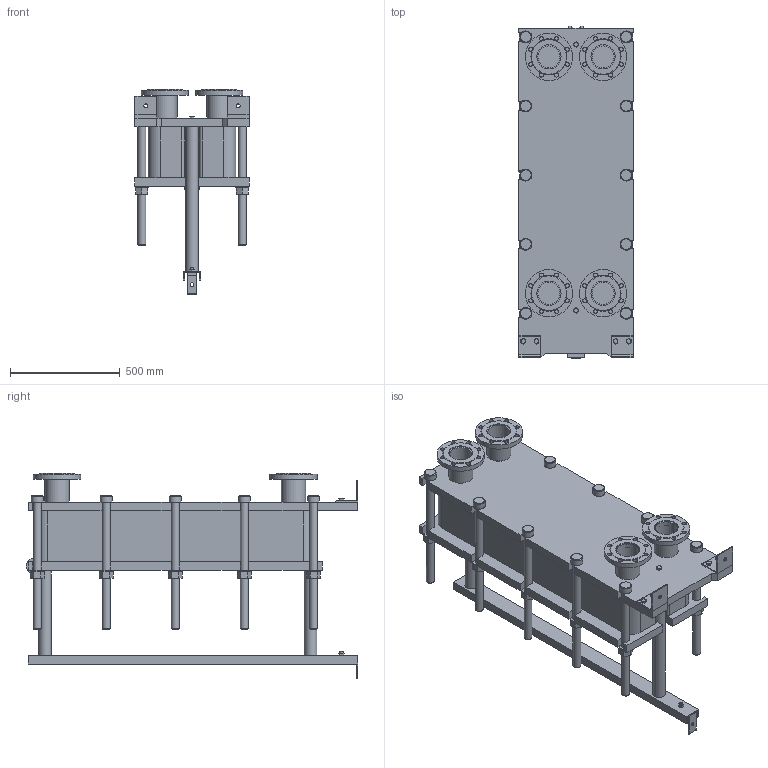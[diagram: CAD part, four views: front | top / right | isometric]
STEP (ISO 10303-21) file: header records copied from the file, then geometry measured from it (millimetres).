
FILE_DESCRIPTION(/* description */ (''),/* implementation_level */ '2;1');
FILE_NAME(/* name */ 'C:\Users\zhuro\Desktop\ENCO\TO\ЭН-04\ЭН-0,5-04-67-1.stp',/* time_stamp */ '2022-06-06T10:50:21+03:00',/* author */ ('zhuro'),/* organization */ (''),/* preprocessor_version */ 'ST-DEVELOPER v18.1',/* originating_system */ 'Autodesk Inventor 2022',/* authorisation */ '');
FILE_SCHEMA (('AUTOMOTIVE_DESIGN { 1 0 10303 214 3 1 1 }'));
Length unit declared in the file: millimetre
Products named in the file (1): ЭН-0,5-04-67-1
Bounding box: 520 x 1510 x 933.5 mm (x, y, z)
Volume: 184948021.4 mm3; surface area: 7629588.8 mm2
Topology: 45 solids, 45 shells, 668 faces, 1611 edges, 1048 vertices
Faces by surface type: plane 457, cylinder 166, cone 39, torus 6
Full cylindrical faces by diameter (mm): 8 x4, 10 x2, 16 x8, 18 x35, 36 x25, 40 x2, 42 x1, 45 x4, 54 x10, 57 x2, 60 x10, 68 x2, 100 x4, 110 x8, 215 x4
Entity records: 23607 total; most frequent: CARTESIAN_POINT 7348, DIRECTION 3371, ORIENTED_EDGE 3142, EDGE_CURVE 1571, AXIS2_PLACEMENT_3D 1199, VERTEX_POINT 1044, LINE 973, VECTOR 973
